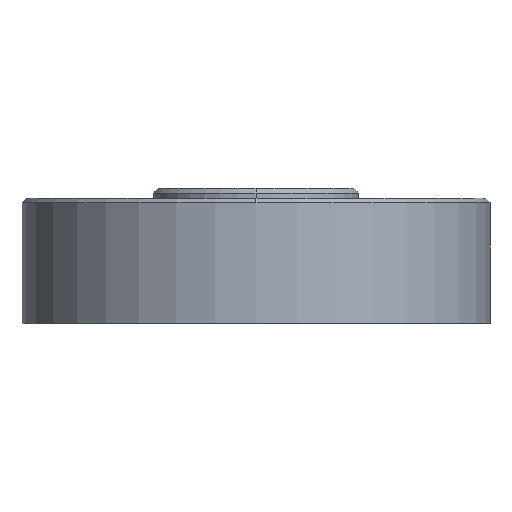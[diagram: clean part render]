
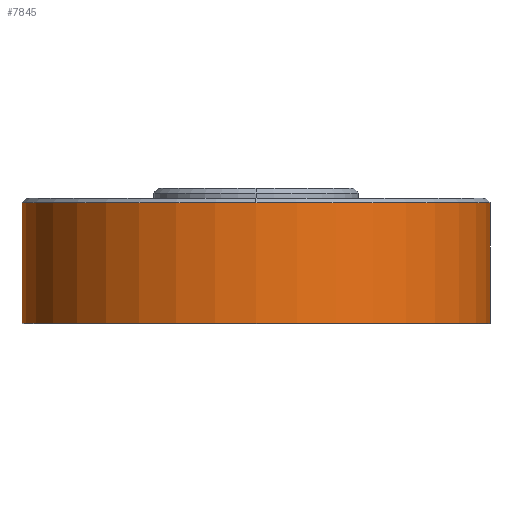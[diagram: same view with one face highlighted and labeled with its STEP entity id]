
A CAD part, left-side view. The second image highlights one B-rep face of the part: STEP entity #7845.
In plain terms, the highlighted cylindrical face has radius 76.975 mm (diameter 153.949 mm), a partial arc.
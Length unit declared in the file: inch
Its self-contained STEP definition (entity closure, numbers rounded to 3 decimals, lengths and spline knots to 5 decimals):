
#199 = CARTESIAN_POINT ( 'NONE',  ( 0., 3.0305, -0.06 ) ) ;
#406 = CARTESIAN_POINT ( 'NONE',  ( 0., 3.0305, -1.624 ) ) ;
#846 = EDGE_CURVE ( 'NONE', #1751, #6023, #6664, .T. ) ;
#1751 = VERTEX_POINT ( 'NONE', #7086 ) ;
#2045 = CARTESIAN_POINT ( 'NONE',  ( 0., -3.0305, -1.624 ) ) ;
#2252 = LINE ( 'NONE', #2253, #2254 ) ;
#2253 = CARTESIAN_POINT ( 'NONE',  ( 0., -3.0305, -0.06 ) ) ;
#2254 = VECTOR ( 'NONE', #2255, 39.37008 ) ;
#2255 = DIRECTION ( 'NONE',  ( 0., 0., -1. ) ) ;
#2358 = CIRCLE ( 'NONE', #2359, 3.0305 ) ;
#2359 = AXIS2_PLACEMENT_3D ( 'NONE', #2360, #2361, #2362 ) ;
#2360 = CARTESIAN_POINT ( 'NONE',  ( 0., 0., -0.06 ) ) ;
#2361 = DIRECTION ( 'NONE',  ( 0., 0., -1. ) ) ;
#2362 = DIRECTION ( 'NONE',  ( -1., 0., 0. ) ) ;
#2895 = CARTESIAN_POINT ( 'NONE',  ( 0., -3.0305, -0.06 ) ) ;
#2912 = EDGE_CURVE ( 'NONE', #6361, #1751, #7916, .T. ) ;
#3366 = FACE_OUTER_BOUND ( 'NONE', #7596, .T. ) ;
#3367 = CYLINDRICAL_SURFACE ( 'NONE', #3368, 3.0305 ) ;
#3368 = AXIS2_PLACEMENT_3D ( 'NONE', #3369, #3370, #3371 ) ;
#3369 = CARTESIAN_POINT ( 'NONE',  ( 0., 0., -0.06 ) ) ;
#3370 = DIRECTION ( 'NONE',  ( 0., 0., -1. ) ) ;
#3371 = DIRECTION ( 'NONE',  ( 0., 1., 0. ) ) ;
#4600 = ORIENTED_EDGE ( 'NONE', *, *, #2912, .F. ) ;
#4684 = ORIENTED_EDGE ( 'NONE', *, *, #846, .F. ) ;
#4766 = ORIENTED_EDGE ( 'NONE', *, *, #5886, .T. ) ;
#4882 = ORIENTED_EDGE ( 'NONE', *, *, #5853, .T. ) ;
#4956 = EDGE_CURVE ( 'NONE', #5063, #5809, #2358, .T. ) ;
#5063 = VERTEX_POINT ( 'NONE', #2895 ) ;
#5809 = VERTEX_POINT ( 'NONE', #8127 ) ;
#5853 = EDGE_CURVE ( 'NONE', #5809, #5986, #8420, .T. ) ;
#5886 = EDGE_CURVE ( 'NONE', #5986, #6023, #8583, .T. ) ;
#5986 = VERTEX_POINT ( 'NONE', #199 ) ;
#6023 = VERTEX_POINT ( 'NONE', #406 ) ;
#6361 = VERTEX_POINT ( 'NONE', #2045 ) ;
#6404 = EDGE_CURVE ( 'NONE', #5063, #6361, #2252, .T. ) ;
#6664 = CIRCLE ( 'NONE', #6665, 3.0305 ) ;
#6665 = AXIS2_PLACEMENT_3D ( 'NONE', #6666, #6667, #6668 ) ;
#6666 = CARTESIAN_POINT ( 'NONE',  ( 0., 0., -1.624 ) ) ;
#6667 = DIRECTION ( 'NONE',  ( 0., 0., -1. ) ) ;
#6668 = DIRECTION ( 'NONE',  ( -1., 0., 0. ) ) ;
#6886 = ORIENTED_EDGE ( 'NONE', *, *, #4956, .T. ) ;
#7071 = ORIENTED_EDGE ( 'NONE', *, *, #6404, .F. ) ;
#7086 = CARTESIAN_POINT ( 'NONE',  ( -3.0305, 0., -1.624 ) ) ;
#7596 = EDGE_LOOP ( 'NONE', ( #7071, #6886, #4882, #4766, #4684, #4600 ) ) ;
#7845 = ADVANCED_FACE ( 'NONE', ( #3366 ), #3367, .T. ) ;
#7916 = CIRCLE ( 'NONE', #7917, 3.0305 ) ;
#7917 = AXIS2_PLACEMENT_3D ( 'NONE', #7918, #7921, #7922 ) ;
#7918 = CARTESIAN_POINT ( 'NONE',  ( 0., 0., -1.624 ) ) ;
#7921 = DIRECTION ( 'NONE',  ( 0., 0., -1. ) ) ;
#7922 = DIRECTION ( 'NONE',  ( -1., 0., 0. ) ) ;
#8127 = CARTESIAN_POINT ( 'NONE',  ( -3.0305, 0., -0.06 ) ) ;
#8420 = CIRCLE ( 'NONE', #8421, 3.0305 ) ;
#8421 = AXIS2_PLACEMENT_3D ( 'NONE', #8422, #8423, #8424 ) ;
#8422 = CARTESIAN_POINT ( 'NONE',  ( 0., 0., -0.06 ) ) ;
#8423 = DIRECTION ( 'NONE',  ( 0., 0., -1. ) ) ;
#8424 = DIRECTION ( 'NONE',  ( -1., 0., 0. ) ) ;
#8583 = LINE ( 'NONE', #8584, #8585 ) ;
#8584 = CARTESIAN_POINT ( 'NONE',  ( 0., 3.0305, -0.06 ) ) ;
#8585 = VECTOR ( 'NONE', #8586, 39.37008 ) ;
#8586 = DIRECTION ( 'NONE',  ( 0., 0., -1. ) ) ;
